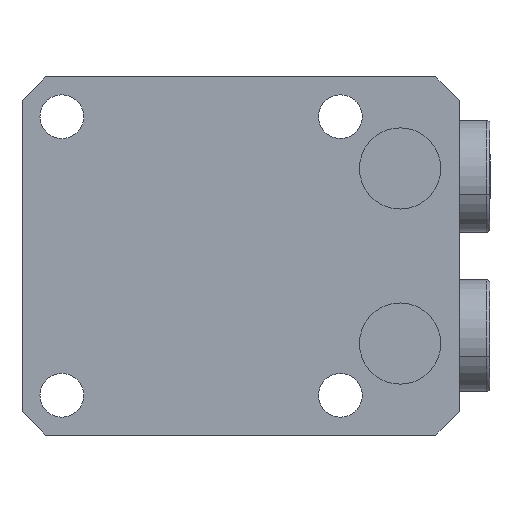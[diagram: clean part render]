
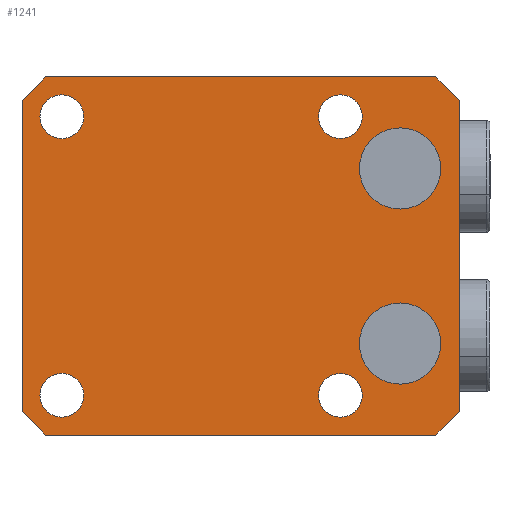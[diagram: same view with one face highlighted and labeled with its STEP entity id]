
A CAD part, front view. The second image highlights one B-rep face of the part: STEP entity #1241.
In plain terms, the highlighted planar face has unit normal (0, -1, 0).
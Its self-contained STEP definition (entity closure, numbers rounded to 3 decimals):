
#140=FACE_BOUND('',#1744,.T.);
#141=FACE_BOUND('',#1745,.T.);
#142=FACE_BOUND('',#1746,.T.);
#143=FACE_BOUND('',#1747,.T.);
#144=FACE_BOUND('',#1748,.T.);
#145=FACE_BOUND('',#1749,.T.);
#146=FACE_BOUND('',#1750,.T.);
#215=PLANE('',#4701);
#583=LINE('',#7060,#936);
#588=LINE('',#7081,#941);
#595=LINE('',#7095,#948);
#603=LINE('',#7121,#956);
#606=LINE('',#7134,#959);
#607=LINE('',#7135,#960);
#608=LINE('',#7136,#961);
#609=LINE('',#7137,#962);
#936=VECTOR('',#5543,1.);
#941=VECTOR('',#5574,1.);
#948=VECTOR('',#5583,1.);
#956=VECTOR('',#5593,1.);
#959=VECTOR('',#5602,1.);
#960=VECTOR('',#5603,1.);
#961=VECTOR('',#5604,1.);
#962=VECTOR('',#5605,1.);
#1241=ADVANCED_FACE('',(#140,#141,#142,#143,#144,#145,#146),#215,.T.);
#1744=EDGE_LOOP('',(#2435,#2436));
#1745=EDGE_LOOP('',(#2437,#2438));
#1746=EDGE_LOOP('',(#2439,#2440,#2441,#2442,#2443,#2444,#2445,#2446));
#1747=EDGE_LOOP('',(#2447,#2448));
#1748=EDGE_LOOP('',(#2449,#2450));
#1749=EDGE_LOOP('',(#2451,#2452));
#1750=EDGE_LOOP('',(#2453,#2454));
#2435=ORIENTED_EDGE('',*,*,#3906,.F.);
#2436=ORIENTED_EDGE('',*,*,#3773,.F.);
#2437=ORIENTED_EDGE('',*,*,#3907,.F.);
#2438=ORIENTED_EDGE('',*,*,#3777,.F.);
#2439=ORIENTED_EDGE('',*,*,#3908,.T.);
#2440=ORIENTED_EDGE('',*,*,#3872,.F.);
#2441=ORIENTED_EDGE('',*,*,#3909,.T.);
#2442=ORIENTED_EDGE('',*,*,#3885,.F.);
#2443=ORIENTED_EDGE('',*,*,#3910,.T.);
#2444=ORIENTED_EDGE('',*,*,#3892,.F.);
#2445=ORIENTED_EDGE('',*,*,#3911,.T.);
#2446=ORIENTED_EDGE('',*,*,#3902,.F.);
#2447=ORIENTED_EDGE('',*,*,#3883,.T.);
#2448=ORIENTED_EDGE('',*,*,#3819,.T.);
#2449=ORIENTED_EDGE('',*,*,#3879,.T.);
#2450=ORIENTED_EDGE('',*,*,#3827,.T.);
#2451=ORIENTED_EDGE('',*,*,#3877,.T.);
#2452=ORIENTED_EDGE('',*,*,#3831,.T.);
#2453=ORIENTED_EDGE('',*,*,#3881,.T.);
#2454=ORIENTED_EDGE('',*,*,#3823,.T.);
#3301=VERTEX_POINT('',#6825);
#3302=VERTEX_POINT('',#6827);
#3305=VERTEX_POINT('',#6834);
#3306=VERTEX_POINT('',#6836);
#3343=VERTEX_POINT('',#6946);
#3344=VERTEX_POINT('',#6947);
#3347=VERTEX_POINT('',#6955);
#3348=VERTEX_POINT('',#6956);
#3351=VERTEX_POINT('',#6964);
#3352=VERTEX_POINT('',#6965);
#3355=VERTEX_POINT('',#6973);
#3356=VERTEX_POINT('',#6974);
#3388=VERTEX_POINT('',#7059);
#3389=VERTEX_POINT('',#7061);
#3392=VERTEX_POINT('',#7082);
#3393=VERTEX_POINT('',#7083);
#3398=VERTEX_POINT('',#7096);
#3399=VERTEX_POINT('',#7097);
#3407=VERTEX_POINT('',#7122);
#3408=VERTEX_POINT('',#7123);
#3773=EDGE_CURVE('',#3301,#3302,#4313,.T.);
#3777=EDGE_CURVE('',#3305,#3306,#4315,.T.);
#3819=EDGE_CURVE('',#3343,#3344,#4330,.T.);
#3823=EDGE_CURVE('',#3347,#3348,#4332,.T.);
#3827=EDGE_CURVE('',#3351,#3352,#4334,.T.);
#3831=EDGE_CURVE('',#3355,#3356,#4336,.T.);
#3872=EDGE_CURVE('',#3388,#3389,#583,.T.);
#3877=EDGE_CURVE('',#3356,#3355,#4338,.T.);
#3879=EDGE_CURVE('',#3352,#3351,#4340,.T.);
#3881=EDGE_CURVE('',#3348,#3347,#4342,.T.);
#3883=EDGE_CURVE('',#3344,#3343,#4344,.T.);
#3885=EDGE_CURVE('',#3392,#3393,#588,.T.);
#3892=EDGE_CURVE('',#3398,#3399,#595,.T.);
#3902=EDGE_CURVE('',#3407,#3408,#603,.T.);
#3906=EDGE_CURVE('',#3302,#3301,#4346,.T.);
#3907=EDGE_CURVE('',#3306,#3305,#4347,.T.);
#3908=EDGE_CURVE('',#3407,#3389,#606,.T.);
#3909=EDGE_CURVE('',#3388,#3393,#607,.T.);
#3910=EDGE_CURVE('',#3392,#3399,#608,.T.);
#3911=EDGE_CURVE('',#3398,#3408,#609,.T.);
#4313=CIRCLE('',#4636,5.1);
#4315=CIRCLE('',#4639,5.1);
#4330=CIRCLE('',#4665,2.75);
#4332=CIRCLE('',#4668,2.75);
#4334=CIRCLE('',#4671,2.75);
#4336=CIRCLE('',#4674,2.75);
#4338=CIRCLE('',#4684,2.75);
#4340=CIRCLE('',#4687,2.75);
#4342=CIRCLE('',#4690,2.75);
#4344=CIRCLE('',#4693,2.75);
#4346=CIRCLE('',#4699,5.1);
#4347=CIRCLE('',#4700,5.1);
#4636=AXIS2_PLACEMENT_3D('',#6826,#5383,#5384);
#4639=AXIS2_PLACEMENT_3D('',#6835,#5391,#5392);
#4665=AXIS2_PLACEMENT_3D('',#6945,#5464,#5465);
#4668=AXIS2_PLACEMENT_3D('',#6954,#5472,#5473);
#4671=AXIS2_PLACEMENT_3D('',#6963,#5480,#5481);
#4674=AXIS2_PLACEMENT_3D('',#6972,#5488,#5489);
#4684=AXIS2_PLACEMENT_3D('',#7069,#5550,#5551);
#4687=AXIS2_PLACEMENT_3D('',#7072,#5556,#5557);
#4690=AXIS2_PLACEMENT_3D('',#7075,#5562,#5563);
#4693=AXIS2_PLACEMENT_3D('',#7078,#5568,#5569);
#4699=AXIS2_PLACEMENT_3D('',#7132,#5598,#5599);
#4700=AXIS2_PLACEMENT_3D('',#7133,#5600,#5601);
#4701=AXIS2_PLACEMENT_3D('',#7138,#5606,#5607);
#5383=DIRECTION('',(0.,-1.,0.));
#5384=DIRECTION('',(0.,0.,-1.));
#5391=DIRECTION('',(0.,-1.,0.));
#5392=DIRECTION('',(0.,0.,-1.));
#5464=DIRECTION('',(0.,1.,0.));
#5465=DIRECTION('',(0.,0.,-1.));
#5472=DIRECTION('',(0.,1.,0.));
#5473=DIRECTION('',(0.,0.,-1.));
#5480=DIRECTION('',(0.,1.,0.));
#5481=DIRECTION('',(0.,0.,-1.));
#5488=DIRECTION('',(0.,1.,0.));
#5489=DIRECTION('',(0.,0.,-1.));
#5543=DIRECTION('',(-1.,0.,0.));
#5550=DIRECTION('',(0.,1.,0.));
#5551=DIRECTION('',(0.,0.,-1.));
#5556=DIRECTION('',(0.,1.,0.));
#5557=DIRECTION('',(0.,0.,-1.));
#5562=DIRECTION('',(0.,1.,0.));
#5563=DIRECTION('',(0.,0.,-1.));
#5568=DIRECTION('',(0.,1.,0.));
#5569=DIRECTION('',(0.,0.,-1.));
#5574=DIRECTION('',(0.,0.,-1.));
#5583=DIRECTION('',(1.,0.,0.));
#5593=DIRECTION('',(0.,0.,1.));
#5598=DIRECTION('',(0.,-1.,0.));
#5599=DIRECTION('',(0.,0.,-1.));
#5600=DIRECTION('',(0.,-1.,0.));
#5601=DIRECTION('',(0.,0.,-1.));
#5602=DIRECTION('',(0.707,0.,-0.707));
#5603=DIRECTION('',(0.707,0.,0.707));
#5604=DIRECTION('',(-0.707,0.,0.707));
#5605=DIRECTION('',(-0.707,0.,-0.707));
#5606=DIRECTION('',(0.,-1.,0.));
#5607=DIRECTION('',(0.,0.,-1.));
#6825=CARTESIAN_POINT('',(-25.,-60.,-5.9));
#6826=CARTESIAN_POINT('',(-25.,-60.,-11.));
#6827=CARTESIAN_POINT('',(-25.,-60.,-16.1));
#6834=CARTESIAN_POINT('',(-25.,-60.,16.1));
#6835=CARTESIAN_POINT('',(-25.,-60.,11.));
#6836=CARTESIAN_POINT('',(-25.,-60.,5.9));
#6945=CARTESIAN_POINT('',(-17.5,-60.,-17.5));
#6946=CARTESIAN_POINT('',(-17.5,-60.,-20.25));
#6947=CARTESIAN_POINT('',(-17.5,-60.,-14.75));
#6954=CARTESIAN_POINT('',(17.5,-60.,17.5));
#6955=CARTESIAN_POINT('',(17.5,-60.,14.75));
#6956=CARTESIAN_POINT('',(17.5,-60.,20.25));
#6963=CARTESIAN_POINT('',(-17.5,-60.,17.5));
#6964=CARTESIAN_POINT('',(-17.5,-60.,14.75));
#6965=CARTESIAN_POINT('',(-17.5,-60.,20.25));
#6972=CARTESIAN_POINT('',(17.5,-60.,-17.5));
#6973=CARTESIAN_POINT('',(17.5,-60.,-20.25));
#6974=CARTESIAN_POINT('',(17.5,-60.,-14.75));
#7059=CARTESIAN_POINT('',(19.5,-60.,-22.5));
#7060=CARTESIAN_POINT('',(22.5,-60.,-22.5));
#7061=CARTESIAN_POINT('',(-29.5,-60.,-22.5));
#7069=CARTESIAN_POINT('',(17.5,-60.,-17.5));
#7072=CARTESIAN_POINT('',(-17.5,-60.,17.5));
#7075=CARTESIAN_POINT('',(17.5,-60.,17.5));
#7078=CARTESIAN_POINT('',(-17.5,-60.,-17.5));
#7081=CARTESIAN_POINT('',(22.5,-60.,-22.5));
#7082=CARTESIAN_POINT('',(22.5,-60.,19.5));
#7083=CARTESIAN_POINT('',(22.5,-60.,-19.5));
#7095=CARTESIAN_POINT('',(22.5,-60.,22.5));
#7096=CARTESIAN_POINT('',(-29.5,-60.,22.5));
#7097=CARTESIAN_POINT('',(19.5,-60.,22.5));
#7121=CARTESIAN_POINT('',(-32.5,-60.,22.5));
#7122=CARTESIAN_POINT('',(-32.5,-60.,-19.5));
#7123=CARTESIAN_POINT('',(-32.5,-60.,19.5));
#7132=CARTESIAN_POINT('',(-25.,-60.,-11.));
#7133=CARTESIAN_POINT('',(-25.,-60.,11.));
#7134=CARTESIAN_POINT('',(-3.5,-60.,-48.5));
#7135=CARTESIAN_POINT('',(21.,-60.,-21.));
#7136=CARTESIAN_POINT('',(43.5,-60.,-1.5));
#7137=CARTESIAN_POINT('',(-26.,-60.,26.));
#7138=CARTESIAN_POINT('',(22.5,-60.,-22.5));
